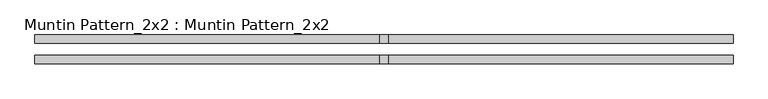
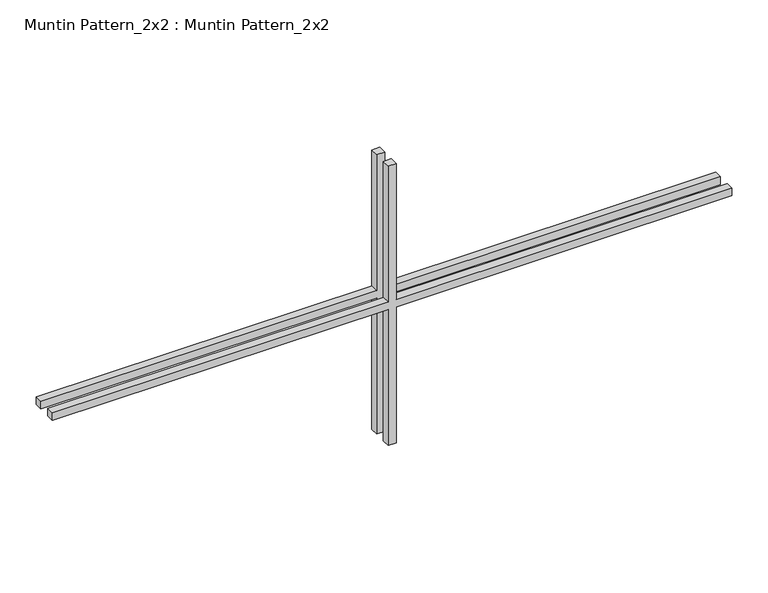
"""IFC4 building model written with IfcOpenShell, lengths in millimetres: proxy geometry, Muntin Pattern_2x2 : Muntin Pattern_2x2."""

from ifc_helpers import new_model, si_unit, frame, origin, place, context, project, spatial, polyline, outline, extrude, source, transform, mapped, element, save


def muntin_pattern_2x2_muntin_pattern_2x2_c44f4804(model_context):
    return source(origin(), model_context, "Body", "SweptSolid", [
        extrude(outline(polyline([(241.3, -6.35), (241.3, -539.75), (228.6, -539.75), (228.6, -6.35), (0.0, -6.35), (0.0, 6.35), (228.6, 6.35), (228.6, 539.75), (241.3, 539.75), (241.3, 6.35), (469.9, 6.35), (469.9, -6.35), (241.3, -6.35)])), frame((0.0, 9.525, 0.0), z_axis=(0.0, 1.0, 0.0), x_axis=(0.0, 0.0, 1.0)), (0.0, 0.0, 1.0), 12.7),
        extrude(outline(polyline([(241.3, -6.35), (241.3, -539.75), (228.6, -539.75), (228.6, -6.35), (0.0, -6.35), (0.0, 6.35), (228.6, 6.35), (228.6, 539.75), (241.3, 539.75), (241.3, 6.35), (469.9, 6.35), (469.9, -6.35), (241.3, -6.35)])), frame((0.0, -22.225, 0.0), z_axis=(0.0, 1.0, 0.0), x_axis=(0.0, 0.0, 1.0)), (0.0, 0.0, 1.0), 12.7),
    ])


if __name__ == "__main__":
    model = new_model("IFC4")
    model_context = context("Model", 3, world=origin())
    ifc_project = project(units=[si_unit("LENGTHUNIT", "METRE", prefix="MILLI")], contexts=[model_context])
    site = spatial("IfcSite", under=ifc_project)
    building = spatial("IfcBuilding", under=site)
    placement = place(None, origin())
    muntin_pattern_2x2_muntin_pattern_2x2_shape = muntin_pattern_2x2_muntin_pattern_2x2_c44f4804(model_context)
    element("IfcBuildingElementProxy", 1, Name="Muntin Pattern_2x2 : Muntin Pattern_2x2", ObjectType="Muntin Pattern_2x2 : Muntin Pattern_2x2", at=placement, inside=building, context=model_context, shape_type="MappedRepresentation", body=[
        mapped(muntin_pattern_2x2_muntin_pattern_2x2_shape, transform((0.0, 0.0, 0.0), x_axis=(1.0, 0.0, 0.0), y_axis=(0.0, 1.0, 0.0), z_axis=(0.0, 0.0, 1.0))),
    ])
    save(model, "model.ifc")
